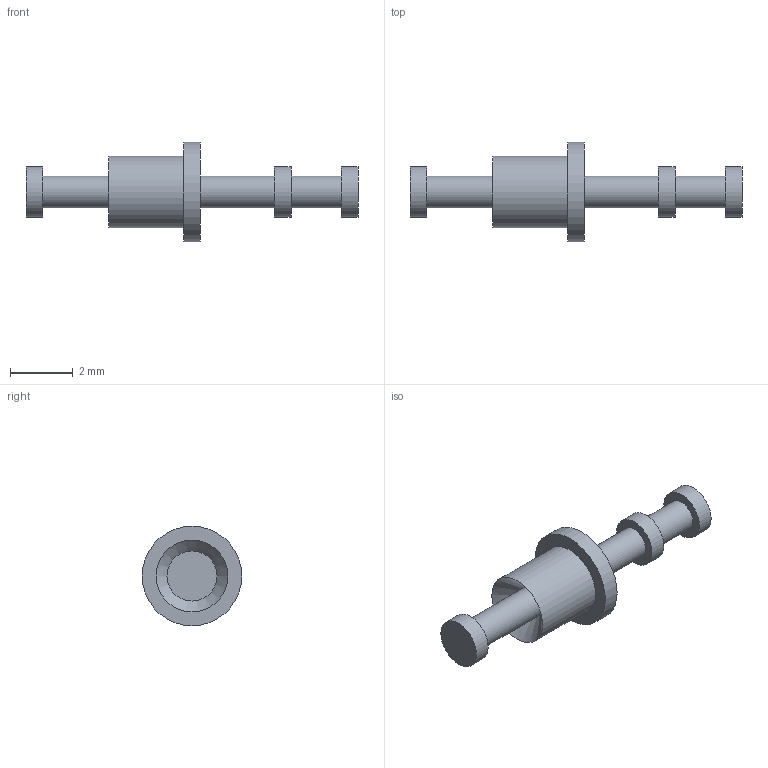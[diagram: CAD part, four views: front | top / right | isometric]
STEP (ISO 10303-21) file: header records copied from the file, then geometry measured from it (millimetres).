
FILE_DESCRIPTION(/* description */ (''),/* implementation_level */ '2;1');
FILE_NAME(/* name */ 'Z:\STEP folder\160-2000-02.ipt.stp',/* time_stamp */ '2016-12-07T10:49:17+00:00',/* author */ ('Paul Karlsons'),/* organization */ (''),/* preprocessor_version */ 'ST-DEVELOPER v15.2',/* originating_system */ 'Autodesk Inventor 2014',/* authorisation */ '');
FILE_SCHEMA (('AUTOMOTIVE_DESIGN { 1 0 10303 214 3 1 1 }'));
Length unit declared in the file: millimetre
Products named in the file (1): 160-2000-02
Bounding box: 10.59 x 3.17 x 3.17 mm (x, y, z)
Volume: 21.2 mm3; surface area: 76.3 mm2
Topology: 1 solids, 1 shells, 17 faces, 25 edges, 16 vertices
Faces by surface type: cylinder 8, plane 8, cone 1
Full cylindrical faces by diameter (mm): 1.016 x3, 1.6 x3, 2.286 x1, 3.175 x1
Entity records: 355 total; most frequent: DIRECTION 68, CARTESIAN_POINT 50, AXIS2_PLACEMENT_3D 34, EDGE_LOOP 32, ORIENTED_EDGE 32, FACE_BOUND 18, ADVANCED_FACE 17, CIRCLE 16
